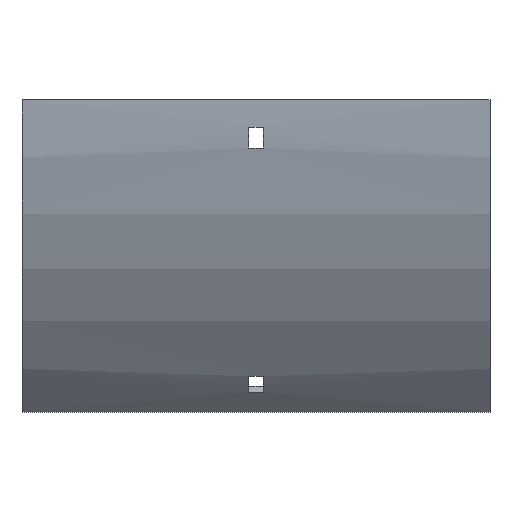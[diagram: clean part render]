
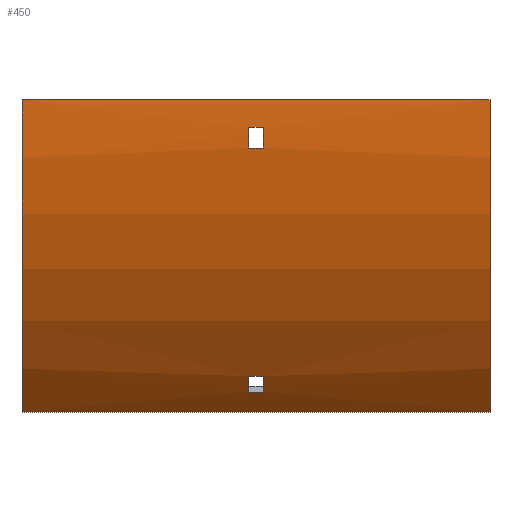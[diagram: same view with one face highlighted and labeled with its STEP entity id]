
A CAD part, front view. The second image highlights one B-rep face of the part: STEP entity #450.
In plain terms, the highlighted cylindrical face has radius 192.5 mm (diameter 385 mm), a partial arc.
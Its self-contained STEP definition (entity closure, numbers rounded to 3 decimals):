
#63 = LINE ( 'NONE', #945, #206 ) ;
#96 = AXIS2_PLACEMENT_3D ( 'NONE', #535, #1473, #1337 ) ;
#114 = EDGE_CURVE ( 'NONE', #370, #1469, #1664, .T. ) ;
#115 = DIRECTION ( 'NONE',  ( -1., 0., 0. ) ) ;
#122 = AXIS2_PLACEMENT_3D ( 'NONE', #170, #1083, #697 ) ;
#124 = DIRECTION ( 'NONE',  ( 0., 0., 1. ) ) ;
#132 = VERTEX_POINT ( 'NONE', #161 ) ;
#133 = EDGE_CURVE ( 'NONE', #1452, #737, #150, .T. ) ;
#138 = EDGE_CURVE ( 'NONE', #1373, #370, #1389, .T. ) ;
#149 = FACE_BOUND ( 'NONE', #1065, .T. ) ;
#150 = CIRCLE ( 'NONE', #239, 192.5 ) ;
#161 = CARTESIAN_POINT ( 'NONE',  ( 3.25, -44.339, -127.368 ) ) ;
#170 = CARTESIAN_POINT ( 'NONE',  ( -3.25, 100., 0. ) ) ;
#200 = EDGE_CURVE ( 'NONE', #1469, #1332, #211, .T. ) ;
#201 = ORIENTED_EDGE ( 'NONE', *, *, #478, .F. ) ;
#206 = VECTOR ( 'NONE', #319, 1000. ) ;
#208 = ORIENTED_EDGE ( 'NONE', *, *, #114, .T. ) ;
#211 = CIRCLE ( 'NONE', #122, 192.5 ) ;
#230 = LINE ( 'NONE', #1251, #1492 ) ;
#239 = AXIS2_PLACEMENT_3D ( 'NONE', #313, #957, #939 ) ;
#247 = VECTOR ( 'NONE', #115, 1000. ) ;
#260 = CIRCLE ( 'NONE', #1237, 192.5 ) ;
#262 = AXIS2_PLACEMENT_3D ( 'NONE', #1235, #1103, #614 ) ;
#290 = CYLINDRICAL_SURFACE ( 'NONE', #294, 192.5 ) ;
#294 = AXIS2_PLACEMENT_3D ( 'NONE', #1170, #1156, #896 ) ;
#313 = CARTESIAN_POINT ( 'NONE',  ( -3.25, 100., 0. ) ) ;
#319 = DIRECTION ( 'NONE',  ( -1., 0., 0. ) ) ;
#325 = CARTESIAN_POINT ( 'NONE',  ( -102., -36.118, -136.118 ) ) ;
#349 = CARTESIAN_POINT ( 'NONE',  ( 102., -36.118, -136.118 ) ) ;
#362 = ORIENTED_EDGE ( 'NONE', *, *, #706, .F. ) ;
#370 = VERTEX_POINT ( 'NONE', #966 ) ;
#380 = VERTEX_POINT ( 'NONE', #408 ) ;
#381 = DIRECTION ( 'NONE',  ( -1., 0., 0. ) ) ;
#385 = FACE_BOUND ( 'NONE', #1625, .T. ) ;
#386 = EDGE_CURVE ( 'NONE', #1120, #956, #415, .T. ) ;
#408 = CARTESIAN_POINT ( 'NONE',  ( -102., -92.5, 0. ) ) ;
#415 = LINE ( 'NONE', #1546, #247 ) ;
#428 = CIRCLE ( 'NONE', #510, 192.5 ) ;
#434 = LINE ( 'NONE', #822, #554 ) ;
#450 = ADVANCED_FACE ( 'NONE', ( #1289, #149, #385 ), #290, .T. ) ;
#478 = EDGE_CURVE ( 'NONE', #132, #868, #428, .T. ) ;
#490 = ORIENTED_EDGE ( 'NONE', *, *, #1689, .T. ) ;
#503 = CARTESIAN_POINT ( 'NONE',  ( -3.25, -44.339, -127.368 ) ) ;
#504 = EDGE_CURVE ( 'NONE', #903, #380, #63, .T. ) ;
#510 = AXIS2_PLACEMENT_3D ( 'NONE', #902, #649, #124 ) ;
#528 = LINE ( 'NONE', #1139, #696 ) ;
#535 = CARTESIAN_POINT ( 'NONE',  ( 3.25, 100., 0. ) ) ;
#537 = CARTESIAN_POINT ( 'NONE',  ( -102., 100., 0. ) ) ;
#543 = ORIENTED_EDGE ( 'NONE', *, *, #386, .F. ) ;
#554 = VECTOR ( 'NONE', #1344, 1000. ) ;
#591 = ORIENTED_EDGE ( 'NONE', *, *, #200, .T. ) ;
#604 = EDGE_CURVE ( 'NONE', #868, #1452, #434, .T. ) ;
#614 = DIRECTION ( 'NONE',  ( 0., 0., -1. ) ) ;
#619 = VECTOR ( 'NONE', #381, 1000. ) ;
#649 = DIRECTION ( 'NONE',  ( -1., 0., 0. ) ) ;
#677 = ORIENTED_EDGE ( 'NONE', *, *, #504, .T. ) ;
#690 = CARTESIAN_POINT ( 'NONE',  ( -3.25, -91.351, -21. ) ) ;
#696 = VECTOR ( 'NONE', #1542, 1000. ) ;
#697 = DIRECTION ( 'NONE',  ( 0., 0., 1. ) ) ;
#706 = EDGE_CURVE ( 'NONE', #737, #132, #230, .T. ) ;
#737 = VERTEX_POINT ( 'NONE', #503 ) ;
#822 = CARTESIAN_POINT ( 'NONE',  ( 102., -50.155, -120.456 ) ) ;
#868 = VERTEX_POINT ( 'NONE', #1681 ) ;
#896 = DIRECTION ( 'NONE',  ( 0., 0., 1. ) ) ;
#902 = CARTESIAN_POINT ( 'NONE',  ( 3.25, 100., 0. ) ) ;
#903 = VERTEX_POINT ( 'NONE', #1428 ) ;
#924 = CARTESIAN_POINT ( 'NONE',  ( -3.25, -50.155, -120.456 ) ) ;
#939 = DIRECTION ( 'NONE',  ( 0., 0., -1. ) ) ;
#945 = CARTESIAN_POINT ( 'NONE',  ( 102., -92.5, 0. ) ) ;
#956 = VERTEX_POINT ( 'NONE', #325 ) ;
#957 = DIRECTION ( 'NONE',  ( 1., 0., 0. ) ) ;
#966 = CARTESIAN_POINT ( 'NONE',  ( 3.25, -91.351, -21. ) ) ;
#998 = CIRCLE ( 'NONE', #262, 192.5 ) ;
#1065 = EDGE_LOOP ( 'NONE', ( #208, #591, #1608, #1424 ) ) ;
#1083 = DIRECTION ( 'NONE',  ( -1., 0., 0. ) ) ;
#1103 = DIRECTION ( 'NONE',  ( 1., 0., 0. ) ) ;
#1120 = VERTEX_POINT ( 'NONE', #349 ) ;
#1139 = CARTESIAN_POINT ( 'NONE',  ( 102., -92.126, -12. ) ) ;
#1143 = EDGE_CURVE ( 'NONE', #903, #1120, #998, .T. ) ;
#1156 = DIRECTION ( 'NONE',  ( -1., 0., 0. ) ) ;
#1170 = CARTESIAN_POINT ( 'NONE',  ( 102., 100., 0. ) ) ;
#1180 = ORIENTED_EDGE ( 'NONE', *, *, #1143, .F. ) ;
#1204 = DIRECTION ( 'NONE',  ( 1., 0., 0. ) ) ;
#1233 = EDGE_CURVE ( 'NONE', #1332, #1373, #528, .T. ) ;
#1235 = CARTESIAN_POINT ( 'NONE',  ( 102., 100., 0. ) ) ;
#1237 = AXIS2_PLACEMENT_3D ( 'NONE', #537, #1204, #1573 ) ;
#1251 = CARTESIAN_POINT ( 'NONE',  ( 102., -44.339, -127.368 ) ) ;
#1289 = FACE_OUTER_BOUND ( 'NONE', #1377, .T. ) ;
#1328 = CARTESIAN_POINT ( 'NONE',  ( 3.25, -92.126, -12. ) ) ;
#1332 = VERTEX_POINT ( 'NONE', #1680 ) ;
#1337 = DIRECTION ( 'NONE',  ( 0., 0., -1. ) ) ;
#1344 = DIRECTION ( 'NONE',  ( -1., 0., 0. ) ) ;
#1373 = VERTEX_POINT ( 'NONE', #1328 ) ;
#1377 = EDGE_LOOP ( 'NONE', ( #490, #543, #1180, #677 ) ) ;
#1389 = CIRCLE ( 'NONE', #96, 192.5 ) ;
#1402 = DIRECTION ( 'NONE',  ( 1., 0., 0. ) ) ;
#1408 = ORIENTED_EDGE ( 'NONE', *, *, #604, .F. ) ;
#1424 = ORIENTED_EDGE ( 'NONE', *, *, #138, .T. ) ;
#1428 = CARTESIAN_POINT ( 'NONE',  ( 102., -92.5, 0. ) ) ;
#1452 = VERTEX_POINT ( 'NONE', #924 ) ;
#1469 = VERTEX_POINT ( 'NONE', #690 ) ;
#1473 = DIRECTION ( 'NONE',  ( 1., 0., 0. ) ) ;
#1492 = VECTOR ( 'NONE', #1402, 1000. ) ;
#1541 = CARTESIAN_POINT ( 'NONE',  ( 102., -91.351, -21. ) ) ;
#1542 = DIRECTION ( 'NONE',  ( 1., 0., 0. ) ) ;
#1546 = CARTESIAN_POINT ( 'NONE',  ( 102., -36.118, -136.118 ) ) ;
#1573 = DIRECTION ( 'NONE',  ( 0., 0., -1. ) ) ;
#1581 = ORIENTED_EDGE ( 'NONE', *, *, #133, .F. ) ;
#1608 = ORIENTED_EDGE ( 'NONE', *, *, #1233, .T. ) ;
#1625 = EDGE_LOOP ( 'NONE', ( #1581, #1408, #201, #362 ) ) ;
#1664 = LINE ( 'NONE', #1541, #619 ) ;
#1680 = CARTESIAN_POINT ( 'NONE',  ( -3.25, -92.126, -12. ) ) ;
#1681 = CARTESIAN_POINT ( 'NONE',  ( 3.25, -50.155, -120.456 ) ) ;
#1689 = EDGE_CURVE ( 'NONE', #380, #956, #260, .T. ) ;
